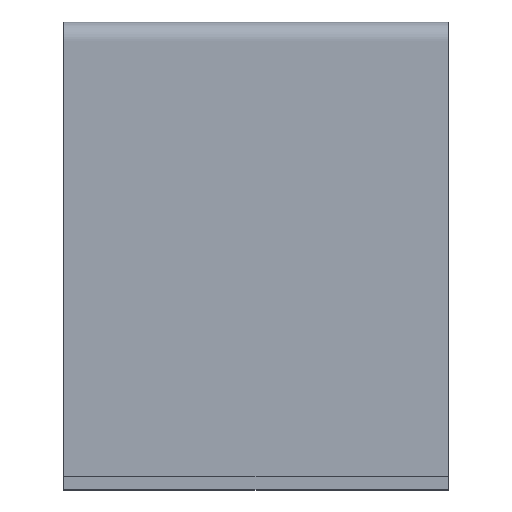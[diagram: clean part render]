
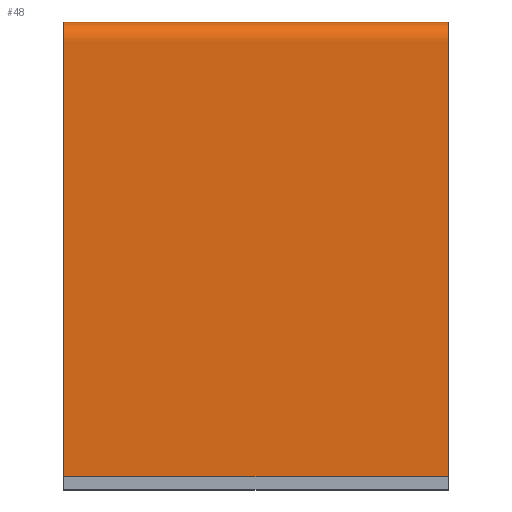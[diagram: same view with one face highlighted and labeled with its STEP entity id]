
A CAD part, left-side view. The second image highlights one B-rep face of the part: STEP entity #48.
In plain terms, the highlighted free-form (B-spline) face has degree [2, 1] with [11, 2] control points.
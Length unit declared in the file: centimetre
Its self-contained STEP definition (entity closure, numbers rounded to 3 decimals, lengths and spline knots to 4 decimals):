
#12=(
BOUNDED_SURFACE()
B_SPLINE_SURFACE(2,1,((#777,#778),(#779,#780),(#781,#782),(#783,#784),(#785,
#786),(#787,#788),(#789,#790),(#791,#792),(#793,#794),(#795,#796),(#797,
#798)),.UNSPECIFIED.,.F.,.F.,.F.)
B_SPLINE_SURFACE_WITH_KNOTS((3,2,2,2,2,3),(2,2),(-264.9248,-194.9248,
-190.2124,-76.2124,-71.5,-1.5),(0.,60.),.UNSPECIFIED.)
GEOMETRIC_REPRESENTATION_ITEM()
RATIONAL_B_SPLINE_SURFACE(((1.,1.),(1.,1.),(1.,1.),(0.707,0.707),
(1.,1.),(1.,1.),(1.,1.),(0.707,0.707),(1.,1.),(1.,
1.),(1.,1.)))
REPRESENTATION_ITEM($)
SURFACE()
);
#14=(
BOUNDED_CURVE()
B_SPLINE_CURVE(2,(#711,#712,#713,#714,#715,#716,#717,#718,#719,#720,#721),
.UNSPECIFIED.,.F.,.F.)
B_SPLINE_CURVE_WITH_KNOTS((3,2,2,2,2,3),(1.5,71.5,76.2124,190.2124,
194.9248,264.9248),.UNSPECIFIED.)
CURVE()
GEOMETRIC_REPRESENTATION_ITEM()
RATIONAL_B_SPLINE_CURVE((1.,1.,1.,0.707,1.,1.,1.,0.707,
1.,1.,1.))
REPRESENTATION_ITEM($)
);
#16=(
BOUNDED_CURVE()
B_SPLINE_CURVE(2,(#735,#736,#737,#738,#739,#740,#741,#742,#743,#744,#745),
.UNSPECIFIED.,.F.,.F.)
B_SPLINE_CURVE_WITH_KNOTS((3,2,2,2,2,3),(1.5,71.5,76.2124,190.2124,
194.9248,264.9248),.UNSPECIFIED.)
CURVE()
GEOMETRIC_REPRESENTATION_ITEM()
RATIONAL_B_SPLINE_CURVE((1.,1.,1.,0.707,1.,1.,1.,0.707,
1.,1.,1.))
REPRESENTATION_ITEM($)
);
#48=ADVANCED_FACE($,(#74),#12,.T.);
#74=FACE_OUTER_BOUND($,#100,.T.);
#100=EDGE_LOOP($,(#214,#215,#216,#217));
#214=ORIENTED_EDGE($,*,*,#281,.T.);
#215=ORIENTED_EDGE($,*,*,#278,.T.);
#216=ORIENTED_EDGE($,*,*,#280,.F.);
#217=ORIENTED_EDGE($,*,*,#275,.F.);
#275=EDGE_CURVE($,#318,#317,#14,.T.);
#278=EDGE_CURVE($,#321,#320,#16,.T.);
#280=EDGE_CURVE($,#317,#320,#400,.T.);
#281=EDGE_CURVE($,#318,#321,#401,.T.);
#317=VERTEX_POINT($,#803);
#318=VERTEX_POINT($,#804);
#320=VERTEX_POINT($,#806);
#321=VERTEX_POINT($,#807);
#400=B_SPLINE_CURVE_WITH_KNOTS($,1,(#748,#749),.UNSPECIFIED.,.F.,.F.,(2,
2),(0.,60.),.UNSPECIFIED.);
#401=B_SPLINE_CURVE_WITH_KNOTS($,1,(#750,#751),.UNSPECIFIED.,.F.,.F.,(2,
2),(0.,60.),.UNSPECIFIED.);
#711=CARTESIAN_POINT($,(120.,0.,0.));
#712=CARTESIAN_POINT($,(120.,0.,35.));
#713=CARTESIAN_POINT($,(120.,0.,70.));
#714=CARTESIAN_POINT($,(120.,0.,73.));
#715=CARTESIAN_POINT($,(117.,0.,73.));
#716=CARTESIAN_POINT($,(60.,0.,73.));
#717=CARTESIAN_POINT($,(3.,0.,73.));
#718=CARTESIAN_POINT($,(0.,0.,73.));
#719=CARTESIAN_POINT($,(0.,0.,70.));
#720=CARTESIAN_POINT($,(0.,0.,35.));
#721=CARTESIAN_POINT($,(0.,0.,0.));
#735=CARTESIAN_POINT($,(120.,60.,0.));
#736=CARTESIAN_POINT($,(120.,60.,35.));
#737=CARTESIAN_POINT($,(120.,60.,70.));
#738=CARTESIAN_POINT($,(120.,60.,73.));
#739=CARTESIAN_POINT($,(117.,60.,73.));
#740=CARTESIAN_POINT($,(60.,60.,73.));
#741=CARTESIAN_POINT($,(3.,60.,73.));
#742=CARTESIAN_POINT($,(0.,60.,73.));
#743=CARTESIAN_POINT($,(0.,60.,70.));
#744=CARTESIAN_POINT($,(0.,60.,35.));
#745=CARTESIAN_POINT($,(0.,60.,0.));
#748=CARTESIAN_POINT($,(0.,0.,0.));
#749=CARTESIAN_POINT($,(0.,60.,0.));
#750=CARTESIAN_POINT($,(120.,0.,0.));
#751=CARTESIAN_POINT($,(120.,60.,0.));
#777=CARTESIAN_POINT($,(0.,0.,0.));
#778=CARTESIAN_POINT($,(0.,60.,0.));
#779=CARTESIAN_POINT($,(0.,0.,35.));
#780=CARTESIAN_POINT($,(0.,60.,35.));
#781=CARTESIAN_POINT($,(0.,0.,70.));
#782=CARTESIAN_POINT($,(0.,60.,70.));
#783=CARTESIAN_POINT($,(0.,0.,73.));
#784=CARTESIAN_POINT($,(0.,60.,73.));
#785=CARTESIAN_POINT($,(3.,0.,73.));
#786=CARTESIAN_POINT($,(3.,60.,73.));
#787=CARTESIAN_POINT($,(60.,0.,73.));
#788=CARTESIAN_POINT($,(60.,60.,73.));
#789=CARTESIAN_POINT($,(117.,0.,73.));
#790=CARTESIAN_POINT($,(117.,60.,73.));
#791=CARTESIAN_POINT($,(120.,0.,73.));
#792=CARTESIAN_POINT($,(120.,60.,73.));
#793=CARTESIAN_POINT($,(120.,0.,70.));
#794=CARTESIAN_POINT($,(120.,60.,70.));
#795=CARTESIAN_POINT($,(120.,0.,35.));
#796=CARTESIAN_POINT($,(120.,60.,35.));
#797=CARTESIAN_POINT($,(120.,0.,0.));
#798=CARTESIAN_POINT($,(120.,60.,0.));
#803=CARTESIAN_POINT($,(0.,0.,0.));
#804=CARTESIAN_POINT($,(120.,0.,0.));
#806=CARTESIAN_POINT($,(0.,60.,0.));
#807=CARTESIAN_POINT($,(120.,60.,0.));
